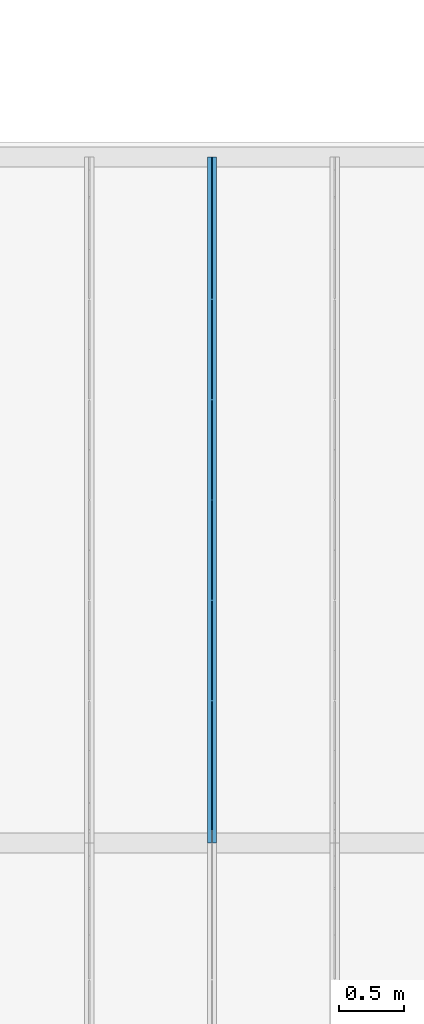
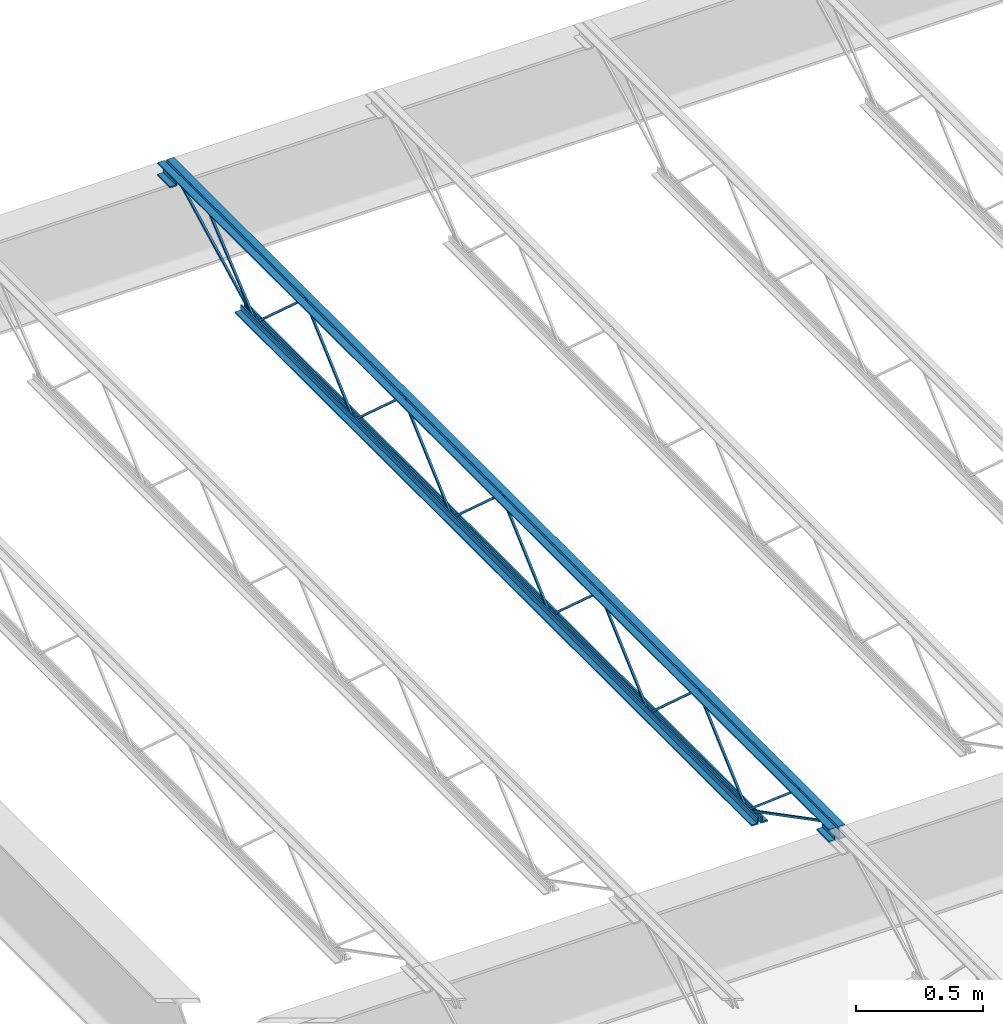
# One storey, part 67 of 75: 1 beam.
"""IFC2X3 building model written with IfcOpenShell, lengths in metres."""

from ifc_helpers import new_model, entity, si_unit, converted_unit, frame, origin, place, context, project, spatial, face_set, surface_model, element, save


model = new_model("IFC2X3")

# Units and contexts
model_context = context("Model", 3, precision=1e-09, world=origin())
plan_context = context("Plan", 3, precision=1e-09, world=origin())
ifc_project = project(units=[si_unit("LENGTHUNIT", "METRE"), si_unit("AREAUNIT", "SQUARE_METRE"), si_unit("VOLUMEUNIT", "CUBIC_METRE"), converted_unit("PLANEANGLEUNIT", "DEGREE", entity("IfcRatioMeasure", 0.01745329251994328), si_unit("PLANEANGLEUNIT", "RADIAN"), dimensions=[0, 0, 0, 0, 0, 0, 0]), si_unit("TIMEUNIT", "SECOND")], contexts=[model_context, plan_context])

# Site, building, storey
site_placement = place(None, origin())
site = spatial("IfcSite", under=ifc_project, at=site_placement, Name="Default", CompositionType="ELEMENT")
building_placement = place(site_placement, origin())
building = spatial("IfcBuilding", under=site, at=building_placement, CompositionType="ELEMENT")
storey_placement = place(building_placement, origin())
storey = spatial("IfcBuildingStorey", under=building, at=storey_placement, Name="First Floor", CompositionType="ELEMENT", Elevation=-3.531500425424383e-13)

# Beam
beam_placement = place(storey_placement, frame((-12.06673437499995, 44.78049999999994, 4.112000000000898), z_axis=(0.0, 0.0, 1.0), x_axis=(-1.0, 0.0, 0.0)))
element("IfcBeam", 1, at=beam_placement, inside=storey, Name="M_K-Series Bar Joist-Rod Web:14K1:14K1", ObjectType="M_K-Series Bar Joist-Rod Web:14K1", context=model_context, shape_type="SurfaceModel", body=[
    surface_model("IfcFaceBasedSurfaceModel", [(-0.0320000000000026, -2.266000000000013, 0.01110000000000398), (-0.04150000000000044, -2.266000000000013, 0.01110000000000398), (-0.04150000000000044, -2.266000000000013, 0.001600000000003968), (-0.0320000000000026, -2.266000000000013, 0.001600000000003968), (-0.04150000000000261, -2.264645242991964, 0.01110000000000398), (-0.0320000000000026, -2.264645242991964, 0.01110000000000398), (-0.04150000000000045, -2.26100475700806, 0.001600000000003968), (-0.04149999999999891, -1.878854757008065, 0.3449000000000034), (-0.04149999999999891, -1.876145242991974, 0.3449000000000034), (-0.04149999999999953, -1.493995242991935, 0.001600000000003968), (-0.04149999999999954, -1.489000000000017, 0.001600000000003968), (-0.04149999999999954, -1.489000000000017, 0.01110000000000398), (-0.04149999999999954, -1.490354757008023, 0.01110000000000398), (-0.04150000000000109, -1.872504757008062, 0.3544000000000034), (-0.04150000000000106, -1.882495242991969, 0.3544000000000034), (-0.03200000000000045, -2.26100475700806, 0.001600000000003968), (-0.03200000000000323, -1.878854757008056, 0.3449000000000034), (-0.03200000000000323, -1.876145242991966, 0.3449000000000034), (-0.0320000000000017, -1.493995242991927, 0.001600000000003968), (-0.03200000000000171, -1.489000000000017, 0.001600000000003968), (-0.03200000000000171, -1.489000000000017, 0.01110000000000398), (-0.0320000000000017, -1.490354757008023, 0.01110000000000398), (-0.03200000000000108, -1.872504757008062, 0.3544000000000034), (-0.03200000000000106, -1.882495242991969, 0.3544000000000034), (-0.03200000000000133, -3.04300000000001, 0.01110000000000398), (-0.04149999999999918, -3.04300000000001, 0.01110000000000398), (-0.04149999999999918, -3.04300000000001, 0.001600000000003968), (-0.03200000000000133, -3.04300000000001, 0.001600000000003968), (-0.04150000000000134, -3.041645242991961, 0.01110000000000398), (-0.03200000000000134, -3.041645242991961, 0.01110000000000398), (-0.04149999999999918, -3.038004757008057, 0.001600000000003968), (-0.0414999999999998, -2.655854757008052, 0.3449000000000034), (-0.04149999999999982, -2.653145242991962, 0.3449000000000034), (-0.04150000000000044, -2.270995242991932, 0.001600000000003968), (-0.04149999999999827, -2.266000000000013, 0.01110000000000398), (-0.04149999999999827, -2.26735475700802, 0.01110000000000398), (-0.04149999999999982, -2.649504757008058, 0.3544000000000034), (-0.0414999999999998, -2.659495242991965, 0.3544000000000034), (-0.03199999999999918, -3.038004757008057, 0.001600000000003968), (-0.03200000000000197, -2.655854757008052, 0.3449000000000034), (-0.03200000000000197, -2.653145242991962, 0.3449000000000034), (-0.03200000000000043, -2.270995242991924, 0.001600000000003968), (-0.03200000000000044, -2.266000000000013, 0.001600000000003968), (-0.0320000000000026, -2.26735475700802, 0.01110000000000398), (-0.03200000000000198, -2.649504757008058, 0.3544000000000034), (-0.03200000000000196, -2.659495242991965, 0.3544000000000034), (-0.03200000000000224, -3.820000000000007, 0.01110000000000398), (-0.04150000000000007, -3.820000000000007, 0.01110000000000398), (-0.04150000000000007, -3.820000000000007, 0.001600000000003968), (-0.03200000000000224, -3.820000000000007, 0.001600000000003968), (-0.04150000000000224, -3.818645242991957, 0.01110000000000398), (-0.03200000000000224, -3.818645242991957, 0.01110000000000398), (-0.04150000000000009, -3.815004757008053, 0.001600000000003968), (-0.0415000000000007, -3.432854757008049, 0.3449000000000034), (-0.04150000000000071, -3.430145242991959, 0.3449000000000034), (-0.04149999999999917, -3.04799524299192, 0.001600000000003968), (-0.04149999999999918, -3.043000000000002, 0.001600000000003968), (-0.04149999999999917, -3.044354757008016, 0.01110000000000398), (-0.04150000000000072, -3.426504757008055, 0.3544000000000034), (-0.0415000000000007, -3.436495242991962, 0.3544000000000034), (-0.03200000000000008, -3.815004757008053, 0.001600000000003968), (-0.03200000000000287, -3.432854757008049, 0.3449000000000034), (-0.03200000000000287, -3.430145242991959, 0.3449000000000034), (-0.03200000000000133, -3.04799524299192, 0.001600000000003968), (-0.03200000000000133, -3.043000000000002, 0.01110000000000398), (-0.03200000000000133, -3.044354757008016, 0.01110000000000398), (-0.03200000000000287, -3.426504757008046, 0.3544000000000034), (-0.03200000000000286, -3.436495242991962, 0.3544000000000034), (-0.03200000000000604, -1.489000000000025, 0.01109999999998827), (-0.04150000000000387, -1.489000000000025, 0.01109999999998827), (-0.04150000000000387, -1.489000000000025, 0.001599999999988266), (-0.03200000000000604, -1.489000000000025, 0.001599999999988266), (-0.04150000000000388, -1.487645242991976, 0.01109999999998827), (-0.03200000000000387, -1.487645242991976, 0.01109999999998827), (-0.04150000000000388, -1.484004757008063, 0.001599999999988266), (-0.04150000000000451, -1.101854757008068, 0.3448999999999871), (-0.04150000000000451, -1.099145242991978, 0.3448999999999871), (-0.04150000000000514, -0.7169952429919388, 0.001599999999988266), (-0.04150000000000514, -0.7120000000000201, 0.001599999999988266), (-0.04150000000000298, -0.7120000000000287, 0.01109999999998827), (-0.04150000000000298, -0.7133547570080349, 0.01109999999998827), (-0.04150000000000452, -1.095504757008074, 0.3543999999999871), (-0.0415000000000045, -1.10549524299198, 0.3543999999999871), (-0.03200000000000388, -1.484004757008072, 0.001599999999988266), (-0.0320000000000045, -1.101854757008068, 0.3448999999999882), (-0.0320000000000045, -1.099145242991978, 0.3448999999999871), (-0.03200000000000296, -0.7169952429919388, 0.001599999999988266), (-0.03200000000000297, -0.7120000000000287, 0.001599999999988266), (-0.0320000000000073, -0.7120000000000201, 0.01109999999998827), (-0.03200000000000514, -0.7133547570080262, 0.01109999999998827), (-0.03200000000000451, -1.095504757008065, 0.3543999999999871), (-0.0320000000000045, -1.105495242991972, 0.3543999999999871), (-0.03200000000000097, -4.597000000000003, 0.01110000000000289), (-0.04149999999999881, -4.597000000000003, 0.01110000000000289), (-0.04149999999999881, -4.597000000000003, 0.001600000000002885), (-0.03200000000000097, -4.597000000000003, 0.001600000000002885), (-0.04150000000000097, -4.595645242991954, 0.01110000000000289), (-0.03200000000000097, -4.595645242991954, 0.01110000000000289), (-0.04149999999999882, -4.592004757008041, 0.001600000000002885), (-0.04149999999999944, -4.209854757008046, 0.3449000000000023), (-0.04149999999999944, -4.207145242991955, 0.3449000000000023), (-0.04150000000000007, -3.824995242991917, 0.001600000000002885), (-0.04150000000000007, -3.819999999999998, 0.001600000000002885), (-0.04149999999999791, -3.820000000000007, 0.01110000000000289), (-0.04149999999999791, -3.821354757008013, 0.01110000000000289), (-0.04149999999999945, -4.203504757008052, 0.3544000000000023), (-0.04149999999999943, -4.213495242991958, 0.3544000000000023), (-0.03199999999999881, -4.592004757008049, 0.001600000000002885), (-0.0320000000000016, -4.209854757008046, 0.3449000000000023), (-0.0320000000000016, -4.207145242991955, 0.3449000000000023), (-0.03200000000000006, -3.824995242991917, 0.001600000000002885), (-0.03200000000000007, -3.820000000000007, 0.001600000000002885), (-0.03200000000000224, -3.819999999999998, 0.01110000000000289), (-0.03200000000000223, -3.821354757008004, 0.01110000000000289), (-0.03200000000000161, -4.203504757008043, 0.3544000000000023), (-0.03200000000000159, -4.213495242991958, 0.3544000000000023), (-0.04150000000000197, 0.0, 0.3559999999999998), (-0.07350000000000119, 0.0, 0.3559999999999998), (-0.07350000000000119, 0.0, 0.349499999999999), (-0.04800000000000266, 0.0, 0.349499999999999), (-0.04800000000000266, 0.0, 0.3239999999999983), (-0.04150000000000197, 0.0, 0.3239999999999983), (-0.03200000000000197, 0.0, 0.3559999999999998), (-0.03200000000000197, 0.0, 0.3239999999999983), (-0.02550000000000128, 0.0, 0.3239999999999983), (-0.02550000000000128, 0.0, 0.349499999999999), (0.0, 0.0, 0.349499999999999), (0.0, 0.0, 0.3559999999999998), (-0.04150000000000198, -5.309000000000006, 0.3559999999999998), (-0.0735000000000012, -5.309000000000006, 0.3559999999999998), (-0.0735000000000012, -5.309000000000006, 0.349499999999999), (-0.04800000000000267, -5.309000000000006, 0.349499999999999), (-0.04800000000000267, -5.309000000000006, 0.3239999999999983), (-0.04150000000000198, -5.309000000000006, 0.3239999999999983), (-0.03200000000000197, -5.309000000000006, 0.3559999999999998), (-0.03200000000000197, -5.309000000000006, 0.3239999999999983), (-0.02550000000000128, -5.309000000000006, 0.3239999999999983), (-0.02550000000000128, -5.309000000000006, 0.349499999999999), (0.0, -5.309000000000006, 0.349499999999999), (0.0, -5.309000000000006, 0.3559999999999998), (-0.03200000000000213, -5.20900000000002, 0.2924999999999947), (0.0, -5.20900000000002, 0.2924999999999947), (0.0, -5.20900000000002, 0.2989999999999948), (-0.02550000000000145, -5.20900000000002, 0.2989999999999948), (-0.02550000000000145, -5.20900000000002, 0.3239999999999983), (-0.03200000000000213, -5.20900000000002, 0.3239999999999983), (-0.07350000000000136, -5.20900000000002, 0.2924999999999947), (-0.04150000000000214, -5.20900000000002, 0.2924999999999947), (-0.04150000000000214, -5.20900000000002, 0.3239999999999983), (-0.04800000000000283, -5.20900000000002, 0.3239999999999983), (-0.04800000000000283, -5.20900000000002, 0.2989999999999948), (-0.07350000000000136, -5.20900000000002, 0.2989999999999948), (-0.03200000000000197, -5.309000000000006, 0.2924999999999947), (0.0, -5.309000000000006, 0.2924999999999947), (0.0, -5.309000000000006, 0.2989999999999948), (-0.02550000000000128, -5.309000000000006, 0.2989999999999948), (-0.0735000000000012, -5.309000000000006, 0.2924999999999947), (-0.04150000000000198, -5.309000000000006, 0.2924999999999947), (-0.04800000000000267, -5.309000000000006, 0.2989999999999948), (-0.0735000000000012, -5.309000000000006, 0.2989999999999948), (-0.04150000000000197, 0.0, 0.2924999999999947), (-0.04800000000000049, 0.0, 0.3239999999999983), (-0.04800000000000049, 0.0, 0.2989999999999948), (-0.07350000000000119, 0.0, 0.2989999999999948), (-0.07350000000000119, 0.0, 0.2924999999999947), (-0.03200000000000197, 0.0, 0.2924999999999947), (0.0, 0.0, 0.2924999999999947), (0.0, 0.0, 0.2989999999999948), (-0.02550000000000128, 0.0, 0.2989999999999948), (-0.04150000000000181, -0.1000000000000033, 0.2924999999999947), (-0.04150000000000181, -0.1000000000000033, 0.3239999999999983), (-0.04800000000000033, -0.1000000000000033, 0.3239999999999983), (-0.04800000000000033, -0.1000000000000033, 0.2989999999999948), (-0.07350000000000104, -0.1000000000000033, 0.2989999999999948), (-0.07350000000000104, -0.1000000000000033, 0.2924999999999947), (-0.03200000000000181, -0.1000000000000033, 0.2924999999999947), (0.0, -0.1000000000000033, 0.2924999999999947), (0.0, -0.1000000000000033, 0.2989999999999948), (-0.02550000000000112, -0.1000000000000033, 0.2989999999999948), (-0.02550000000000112, -0.1000000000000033, 0.3239999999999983), (-0.03200000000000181, -0.1000000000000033, 0.3239999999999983), (-0.04150000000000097, -0.6119999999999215, 0.0), (-0.04150000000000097, -0.6119999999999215, 0.03199999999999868), (-0.04800000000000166, -0.6119999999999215, 0.03199999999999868), (-0.04800000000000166, -0.6119999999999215, 0.006499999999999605), (-0.07350000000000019, -0.6119999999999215, 0.006499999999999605), (-0.07350000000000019, -0.6119999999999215, 0.0), (-0.03200000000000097, -0.6119999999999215, 0.0), (0.0, -0.6119999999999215, 0.0), (0.0, -0.6119999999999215, 0.006499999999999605), (-0.02550000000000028, -0.6119999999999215, 0.006499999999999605), (-0.02550000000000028, -0.6119999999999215, 0.03199999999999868), (-0.03200000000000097, -0.6119999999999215, 0.03199999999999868), (-0.04150000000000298, -4.696999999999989, 0.0), (-0.04150000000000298, -4.696999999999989, 0.03199999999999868), (-0.04800000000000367, -4.696999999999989, 0.03199999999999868), (-0.04800000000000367, -4.696999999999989, 0.006499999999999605), (-0.0735000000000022, -4.696999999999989, 0.006499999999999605), (-0.0735000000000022, -4.696999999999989, 0.0), (-0.03200000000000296, -4.696999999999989, 0.0), (0.0, -4.696999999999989, 0.0), (0.0, -4.696999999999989, 0.006499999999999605), (-0.02550000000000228, -4.696999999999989, 0.006499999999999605), (-0.02550000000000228, -4.696999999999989, 0.03199999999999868), (-0.03200000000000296, -4.696999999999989, 0.03199999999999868), (-0.03199999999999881, -4.594811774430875, 0.01056594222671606), (-0.04149999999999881, -4.594811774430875, 0.01056594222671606), (-0.04149999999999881, -4.599188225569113, 0.002134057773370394), (-0.03200000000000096, -4.599188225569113, 0.002134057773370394), (-0.0319999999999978, -5.207840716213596, 0.3287499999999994), (-0.0319999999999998, -5.308999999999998, 0.3287499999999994), (-0.0319999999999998, -5.308999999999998, 0.3192499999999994), (-0.03199999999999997, -5.210159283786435, 0.3192499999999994), (-0.04149999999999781, -5.210159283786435, 0.3192499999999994), (-0.04149999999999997, -5.207840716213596, 0.3287499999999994), (-0.04149999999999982, -5.308999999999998, 0.3287499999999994), (-0.04149999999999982, -5.309000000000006, 0.3192499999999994), (-0.03200000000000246, -5.005457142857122, 0.341700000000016), (-0.0415000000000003, -5.005457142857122, 0.341700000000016), (-0.0415000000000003, -5.005457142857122, 0.332200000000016), (-0.03200000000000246, -5.005457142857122, 0.332200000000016), (-0.04150000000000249, -4.991034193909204, 0.341700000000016), (-0.03200000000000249, -4.991034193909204, 0.341700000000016), (-0.04150000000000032, -4.994480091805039, 0.332200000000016), (-0.0414999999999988, -4.600045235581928, 0.002704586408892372), (-0.04150000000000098, -4.593954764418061, 0.009995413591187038), (-0.03200000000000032, -4.994480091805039, 0.332200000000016), (-0.03200000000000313, -4.600045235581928, 0.002704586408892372), (-0.03199999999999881, -4.593954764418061, 0.009995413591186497), (-0.03199999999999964, -0.09781177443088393, 0.3197840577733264), (-0.03200000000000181, -0.1021882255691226, 0.3282159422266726), (-0.04150000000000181, -0.1021882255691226, 0.3282159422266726), (-0.04149999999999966, -0.09781177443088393, 0.3197840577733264), (-0.03200000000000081, -0.7098117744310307, 0.002134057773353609), (-0.03200000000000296, -0.7141882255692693, 0.01056594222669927), (-0.04150000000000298, -0.7141882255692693, 0.01056594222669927), (-0.04150000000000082, -0.7098117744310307, 0.002134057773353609), (-0.0319999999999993, -0.3059055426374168, 0.3460340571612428), (-0.03200000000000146, -0.3120658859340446, 0.3532659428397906), (-0.04150000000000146, -0.3120658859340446, 0.3532659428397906), (-0.04149999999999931, -0.3059055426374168, 0.3460340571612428), (-0.03200000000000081, -0.7089198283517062, 0.002734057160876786), (-0.03200000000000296, -0.7150801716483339, 0.009965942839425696), (-0.04150000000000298, -0.7150801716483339, 0.009965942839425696), (-0.04150000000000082, -0.7089198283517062, 0.002734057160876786)], [face_set([[[0, 1, 2, 3]], [[1, 4, 5, 0]], [[2, 6, 7, 8, 9, 10, 11, 12, 13, 14, 4, 1]], [[3, 2, 6, 15]], [[0, 3, 15, 16, 17, 18, 19, 20, 21, 22, 23, 5]], [[4, 5, 23, 14]], [[15, 16, 7, 6]], [[14, 13, 22, 23]], [[16, 7, 8, 17]], [[13, 12, 21, 22]], [[17, 8, 9, 18]], [[20, 11, 10, 19]], [[12, 11, 20, 21]], [[18, 9, 10, 19]]]), face_set([[[24, 25, 26, 27]], [[25, 28, 29, 24]], [[26, 30, 31, 32, 33, 2, 34, 35, 36, 37, 28, 25]], [[27, 26, 30, 38]], [[24, 27, 38, 39, 40, 41, 42, 0, 43, 44, 45, 29]], [[28, 29, 45, 37]], [[38, 39, 31, 30]], [[37, 36, 44, 45]], [[39, 31, 32, 40]], [[36, 35, 43, 44]], [[40, 32, 33, 41]], [[0, 34, 2, 42]], [[35, 34, 0, 43]], [[41, 33, 2, 42]]]), face_set([[[46, 47, 48, 49]], [[47, 50, 51, 46]], [[48, 52, 53, 54, 55, 56, 25, 57, 58, 59, 50, 47]], [[49, 48, 52, 60]], [[46, 49, 60, 61, 62, 63, 27, 64, 65, 66, 67, 51]], [[50, 51, 67, 59]], [[60, 61, 53, 52]], [[59, 58, 66, 67]], [[61, 53, 54, 62]], [[58, 57, 65, 66]], [[62, 54, 55, 63]], [[64, 25, 56, 27]], [[57, 25, 64, 65]], [[63, 55, 56, 27]]]), face_set([[[68, 69, 70, 71]], [[69, 72, 73, 68]], [[70, 74, 75, 76, 77, 78, 79, 80, 81, 82, 72, 69]], [[71, 70, 74, 83]], [[68, 71, 83, 84, 85, 86, 87, 88, 89, 90, 91, 73]], [[72, 73, 91, 82]], [[83, 84, 75, 74]], [[82, 81, 90, 91]], [[84, 75, 76, 85]], [[81, 80, 89, 90]], [[85, 76, 77, 86]], [[88, 79, 78, 87]], [[80, 79, 88, 89]], [[86, 77, 78, 87]]]), face_set([[[92, 93, 94, 95]], [[93, 96, 97, 92]], [[94, 98, 99, 100, 101, 102, 103, 104, 105, 106, 96, 93]], [[95, 94, 98, 107]], [[92, 95, 107, 108, 109, 110, 111, 112, 113, 114, 115, 97]], [[96, 97, 115, 106]], [[107, 108, 99, 98]], [[106, 105, 114, 115]], [[108, 99, 100, 109]], [[105, 104, 113, 114]], [[109, 100, 101, 110]], [[112, 103, 102, 111]], [[104, 103, 112, 113]], [[110, 101, 102, 111]]]), face_set([[[116, 117, 118, 119, 120, 121]], [[122, 123, 124, 125, 126, 127]], [[128, 129, 130, 131, 132, 133]], [[134, 135, 136, 137, 138, 139]], [[121, 116, 128, 133]], [[120, 121, 133, 132]], [[119, 131, 132, 120]], [[118, 119, 131, 130]], [[117, 129, 130, 118]], [[116, 128, 129, 117]], [[127, 139, 134, 122]], [[126, 127, 139, 138]], [[125, 126, 138, 137]], [[124, 125, 137, 136]], [[123, 124, 136, 135]], [[122, 134, 135, 123]]]), face_set([[[140, 141, 142, 143, 144, 145]], [[146, 147, 148, 149, 150, 151]], [[152, 153, 154, 155, 136, 135]], [[156, 157, 133, 132, 158, 159]], [[145, 135, 152, 140]], [[144, 136, 135, 145]], [[143, 144, 136, 155]], [[142, 154, 155, 143]], [[141, 142, 154, 153]], [[140, 141, 153, 152]], [[151, 159, 156, 146]], [[150, 158, 159, 151]], [[149, 132, 158, 150]], [[148, 133, 132, 149]], [[147, 148, 133, 157]], [[146, 147, 157, 156]]]), face_set([[[160, 121, 161, 162, 163, 164]], [[165, 166, 167, 168, 124, 123]], [[169, 170, 171, 172, 173, 174]], [[175, 176, 177, 178, 179, 180]], [[164, 160, 169, 174]], [[163, 173, 174, 164]], [[162, 172, 173, 163]], [[161, 171, 172, 162]], [[121, 170, 171, 161]], [[160, 121, 170, 169]], [[123, 180, 175, 165]], [[124, 179, 180, 123]], [[168, 124, 179, 178]], [[167, 177, 178, 168]], [[166, 167, 177, 176]], [[165, 166, 176, 175]]]), face_set([[[181, 182, 183, 184, 185, 186]], [[187, 188, 189, 190, 191, 192]], [[193, 194, 195, 196, 197, 198]], [[199, 200, 201, 202, 203, 204]], [[186, 181, 193, 198]], [[185, 197, 198, 186]], [[184, 196, 197, 185]], [[183, 195, 196, 184]], [[182, 194, 195, 183]], [[181, 182, 194, 193]], [[192, 204, 199, 187]], [[191, 203, 204, 192]], [[190, 191, 203, 202]], [[189, 201, 202, 190]], [[188, 189, 201, 200]], [[187, 188, 200, 199]]]), face_set([[[205, 206, 207, 208]], [[208, 205, 209, 210, 211, 212]], [[207, 208, 212, 213]], [[206, 214, 215, 216, 213, 207]], [[205, 209, 214, 206]], [[210, 215, 216, 211]], [[213, 212, 211, 216]], [[209, 210, 215, 214]]]), face_set([[[217, 218, 219, 220]], [[218, 221, 222, 217]], [[219, 223, 224, 225, 221, 218]], [[220, 219, 223, 226]], [[217, 220, 226, 227, 228, 222]], [[228, 225, 224, 227]], [[221, 225, 228, 222]], [[226, 223, 224, 227]]]), face_set([[[229, 230, 231, 232]], [[233, 234, 235, 236]], [[232, 236, 233, 229]], [[231, 235, 236, 232]], [[230, 231, 235, 234]], [[229, 230, 234, 233]]]), face_set([[[237, 238, 239, 240]], [[241, 242, 243, 244]], [[240, 244, 241, 237]], [[239, 243, 244, 240]], [[238, 239, 243, 242]], [[237, 238, 242, 241]]])]),
])

save(model, "model.ifc")
